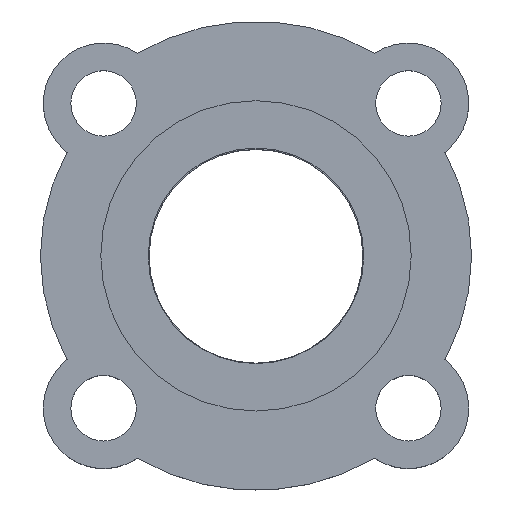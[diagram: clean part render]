
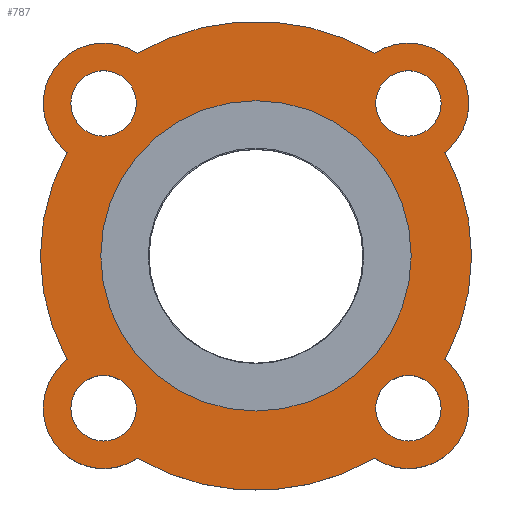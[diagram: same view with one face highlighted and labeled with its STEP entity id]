
A CAD part, top view. The second image highlights one B-rep face of the part: STEP entity #787.
In plain terms, the highlighted planar face has unit normal (0, 0, 1).
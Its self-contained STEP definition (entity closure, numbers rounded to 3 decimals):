
#30=CARTESIAN_POINT('',(0.,0.,-1.));
#31=DIRECTION('',(0.,0.,1.));
#32=DIRECTION('',(0.,1.,0.));
#33=AXIS2_PLACEMENT_3D('',#30,#31,#32);
#39=CARTESIAN_POINT('',(0.,0.,-1.));
#40=DIRECTION('',(0.,0.,-1.));
#41=DIRECTION('',(0.,1.,0.));
#42=AXIS2_PLACEMENT_3D('',#39,#40,#41);
#48=CARTESIAN_POINT('',(-44.194,-44.194,-1.));
#49=DIRECTION('',(0.,0.,-1.));
#50=DIRECTION('',(1.,0.,0.));
#51=AXIS2_PLACEMENT_3D('',#48,#49,#50);
#53=CARTESIAN_POINT('',(-44.194,-44.194,-1.));
#54=DIRECTION('',(0.,0.,-1.));
#55=DIRECTION('',(-1.,0.,0.));
#56=AXIS2_PLACEMENT_3D('',#53,#54,#55);
#58=CARTESIAN_POINT('',(44.194,-44.194,-1.));
#59=DIRECTION('',(0.,0.,-1.));
#60=DIRECTION('',(1.,0.,0.));
#61=AXIS2_PLACEMENT_3D('',#58,#59,#60);
#63=CARTESIAN_POINT('',(44.194,-44.194,-1.));
#64=DIRECTION('',(0.,0.,-1.));
#65=DIRECTION('',(-1.,0.,0.));
#66=AXIS2_PLACEMENT_3D('',#63,#64,#65);
#68=DIRECTION('',(-0.707,0.707,0.));
#69=VECTOR('',#68,2.5);
#70=CARTESIAN_POINT('',(-54.801,30.052,-1.));
#71=LINE('',#70,#69);
#72=CARTESIAN_POINT('',(-44.194,44.194,-1.));
#73=DIRECTION('',(0.,0.,-1.));
#74=DIRECTION('',(-0.707,-0.707,0.));
#75=AXIS2_PLACEMENT_3D('',#72,#73,#74);
#77=CARTESIAN_POINT('',(0.,0.,-1.));
#78=DIRECTION('',(0.,0.,-1.));
#79=DIRECTION('',(-0.505,0.863,0.));
#80=AXIS2_PLACEMENT_3D('',#77,#78,#79);
#82=CARTESIAN_POINT('',(44.194,44.194,-1.));
#83=DIRECTION('',(0.,0.,-1.));
#84=DIRECTION('',(-0.561,0.827,0.));
#85=AXIS2_PLACEMENT_3D('',#82,#83,#84);
#87=DIRECTION('',(-0.707,-0.707,0.));
#88=VECTOR('',#87,2.5);
#89=CARTESIAN_POINT('',(56.569,31.82,-1.));
#90=LINE('',#89,#88);
#91=DIRECTION('',(-0.707,0.707,0.));
#92=VECTOR('',#91,2.5);
#93=CARTESIAN_POINT('',(56.569,-31.82,-1.));
#94=LINE('',#93,#92);
#95=CARTESIAN_POINT('',(44.194,-44.194,-1.));
#96=DIRECTION('',(0.,0.,1.));
#97=DIRECTION('',(-0.561,-0.827,0.));
#98=AXIS2_PLACEMENT_3D('',#95,#96,#97);
#100=CARTESIAN_POINT('',(0.,0.,-1.));
#101=DIRECTION('',(0.,0.,1.));
#102=DIRECTION('',(-0.505,-0.863,0.));
#103=AXIS2_PLACEMENT_3D('',#100,#101,#102);
#105=CARTESIAN_POINT('',(-44.194,-44.194,-1.));
#106=DIRECTION('',(0.,0.,1.));
#107=DIRECTION('',(-0.707,0.707,0.));
#108=AXIS2_PLACEMENT_3D('',#105,#106,#107);
#110=DIRECTION('',(-0.707,-0.707,0.));
#111=VECTOR('',#110,2.5);
#112=CARTESIAN_POINT('',(-54.801,-30.052,-1.));
#113=LINE('',#112,#111);
#114=CARTESIAN_POINT('',(-44.194,44.194,-1.));
#115=DIRECTION('',(0.,0.,1.));
#116=DIRECTION('',(1.,0.,0.));
#117=AXIS2_PLACEMENT_3D('',#114,#115,#116);
#119=CARTESIAN_POINT('',(-44.194,44.194,-1.));
#120=DIRECTION('',(0.,0.,1.));
#121=DIRECTION('',(-1.,0.,0.));
#122=AXIS2_PLACEMENT_3D('',#119,#120,#121);
#124=CARTESIAN_POINT('',(44.194,44.194,-1.));
#125=DIRECTION('',(0.,0.,1.));
#126=DIRECTION('',(1.,0.,0.));
#127=AXIS2_PLACEMENT_3D('',#124,#125,#126);
#129=CARTESIAN_POINT('',(44.194,44.194,-1.));
#130=DIRECTION('',(0.,0.,1.));
#131=DIRECTION('',(-1.,0.,0.));
#132=AXIS2_PLACEMENT_3D('',#129,#130,#131);
#289=CARTESIAN_POINT('',(0.,0.,-1.));
#290=DIRECTION('',(0.,0.,1.));
#291=DIRECTION('',(-0.877,0.481,0.));
#292=AXIS2_PLACEMENT_3D('',#289,#290,#291);
#316=CARTESIAN_POINT('',(0.,0.,-1.));
#317=DIRECTION('',(0.,0.,1.));
#318=DIRECTION('',(0.877,-0.481,0.));
#319=AXIS2_PLACEMENT_3D('',#316,#317,#318);
#518=CARTESIAN_POINT('',(0.,45.,-1.));
#520=VERTEX_POINT('',#518);
#526=CARTESIAN_POINT('',(0.,-45.,-1.));
#528=VERTEX_POINT('',#526);
#534=CARTESIAN_POINT('',(-56.569,-31.82,-1.));
#535=CARTESIAN_POINT('',(-34.369,-58.675,-1.));
#536=VERTEX_POINT('',#534);
#537=VERTEX_POINT('',#535);
#538=CARTESIAN_POINT('',(34.369,-58.675,-1.));
#539=VERTEX_POINT('',#538);
#540=CARTESIAN_POINT('',(56.569,-31.82,-1.));
#541=VERTEX_POINT('',#540);
#561=CARTESIAN_POINT('',(-54.801,-30.052,-1.));
#562=VERTEX_POINT('',#561);
#563=CARTESIAN_POINT('',(54.801,-30.052,-1.));
#564=VERTEX_POINT('',#563);
#565=CARTESIAN_POINT('',(-34.694,-44.194,-1.));
#566=CARTESIAN_POINT('',(-53.694,-44.194,-1.));
#567=VERTEX_POINT('',#565);
#568=VERTEX_POINT('',#566);
#569=CARTESIAN_POINT('',(53.694,-44.194,-1.));
#570=CARTESIAN_POINT('',(34.694,-44.194,-1.));
#571=VERTEX_POINT('',#569);
#572=VERTEX_POINT('',#570);
#581=CARTESIAN_POINT('',(-56.569,31.82,-1.));
#582=CARTESIAN_POINT('',(-34.369,58.675,-1.));
#583=VERTEX_POINT('',#581);
#584=VERTEX_POINT('',#582);
#585=CARTESIAN_POINT('',(34.369,58.675,-1.));
#586=VERTEX_POINT('',#585);
#587=CARTESIAN_POINT('',(56.569,31.82,-1.));
#588=VERTEX_POINT('',#587);
#597=CARTESIAN_POINT('',(-54.801,30.052,-1.));
#598=VERTEX_POINT('',#597);
#599=CARTESIAN_POINT('',(54.801,30.052,-1.));
#600=VERTEX_POINT('',#599);
#606=CARTESIAN_POINT('',(-34.694,44.194,-1.));
#608=VERTEX_POINT('',#606);
#610=CARTESIAN_POINT('',(-53.694,44.194,-1.));
#612=VERTEX_POINT('',#610);
#614=CARTESIAN_POINT('',(53.694,44.194,-1.));
#616=VERTEX_POINT('',#614);
#618=CARTESIAN_POINT('',(34.694,44.194,-1.));
#620=VERTEX_POINT('',#618);
#728=CARTESIAN_POINT('',(0.,0.,-1.));
#729=DIRECTION('',(0.,0.,1.));
#730=DIRECTION('',(0.,1.,0.));
#731=AXIS2_PLACEMENT_3D('',#728,#729,#730);
#732=PLANE('',#731);
#734=ORIENTED_EDGE('',*,*,#733,.F.);
#736=ORIENTED_EDGE('',*,*,#735,.T.);
#738=ORIENTED_EDGE('',*,*,#737,.T.);
#740=ORIENTED_EDGE('',*,*,#739,.T.);
#742=ORIENTED_EDGE('',*,*,#741,.T.);
#744=ORIENTED_EDGE('',*,*,#743,.T.);
#746=ORIENTED_EDGE('',*,*,#745,.F.);
#748=ORIENTED_EDGE('',*,*,#747,.F.);
#750=ORIENTED_EDGE('',*,*,#749,.F.);
#752=ORIENTED_EDGE('',*,*,#751,.F.);
#754=ORIENTED_EDGE('',*,*,#753,.F.);
#756=ORIENTED_EDGE('',*,*,#755,.F.);
#757=EDGE_LOOP('',(#734,#736,#738,#740,#742,#744,#746,#748,#750,#752,#754,
#756));
#758=FACE_OUTER_BOUND('',#757,.F.);
#760=ORIENTED_EDGE('',*,*,#759,.F.);
#762=ORIENTED_EDGE('',*,*,#761,.F.);
#763=EDGE_LOOP('',(#760,#762));
#764=FACE_BOUND('',#763,.F.);
#766=ORIENTED_EDGE('',*,*,#765,.F.);
#768=ORIENTED_EDGE('',*,*,#767,.F.);
#769=EDGE_LOOP('',(#766,#768));
#770=FACE_BOUND('',#769,.F.);
#771=ORIENTED_EDGE('',*,*,#721,.F.);
#772=ORIENTED_EDGE('',*,*,#710,.T.);
#773=EDGE_LOOP('',(#771,#772));
#774=FACE_BOUND('',#773,.F.);
#776=ORIENTED_EDGE('',*,*,#775,.T.);
#778=ORIENTED_EDGE('',*,*,#777,.T.);
#779=EDGE_LOOP('',(#776,#778));
#780=FACE_BOUND('',#779,.F.);
#782=ORIENTED_EDGE('',*,*,#781,.T.);
#784=ORIENTED_EDGE('',*,*,#783,.T.);
#785=EDGE_LOOP('',(#782,#784));
#786=FACE_BOUND('',#785,.F.);
#787=ADVANCED_FACE('',(#758,#764,#770,#774,#780,#786),#732,.T.);
#34=CIRCLE('',#33,45.);
#43=CIRCLE('',#42,45.);
#52=CIRCLE('',#51,9.5);
#57=CIRCLE('',#56,9.5);
#62=CIRCLE('',#61,9.5);
#67=CIRCLE('',#66,9.5);
#76=CIRCLE('',#75,17.5);
#81=CIRCLE('',#80,68.);
#86=CIRCLE('',#85,17.5);
#99=CIRCLE('',#98,17.5);
#104=CIRCLE('',#103,68.);
#109=CIRCLE('',#108,17.5);
#118=CIRCLE('',#117,9.5);
#123=CIRCLE('',#122,9.5);
#128=CIRCLE('',#127,9.5);
#133=CIRCLE('',#132,9.5);
#293=CIRCLE('',#292,62.5);
#320=CIRCLE('',#319,62.5);
#710=EDGE_CURVE('',#520,#528,#34,.T.);
#721=EDGE_CURVE('',#520,#528,#43,.T.);
#733=EDGE_CURVE('',#598,#562,#293,.T.);
#735=EDGE_CURVE('',#598,#583,#71,.T.);
#737=EDGE_CURVE('',#583,#584,#76,.T.);
#739=EDGE_CURVE('',#584,#586,#81,.T.);
#741=EDGE_CURVE('',#586,#588,#86,.T.);
#743=EDGE_CURVE('',#588,#600,#90,.T.);
#745=EDGE_CURVE('',#564,#600,#320,.T.);
#747=EDGE_CURVE('',#541,#564,#94,.T.);
#749=EDGE_CURVE('',#539,#541,#99,.T.);
#751=EDGE_CURVE('',#537,#539,#104,.T.);
#753=EDGE_CURVE('',#536,#537,#109,.T.);
#755=EDGE_CURVE('',#562,#536,#113,.T.);
#759=EDGE_CURVE('',#567,#568,#52,.T.);
#761=EDGE_CURVE('',#568,#567,#57,.T.);
#765=EDGE_CURVE('',#571,#572,#62,.T.);
#767=EDGE_CURVE('',#572,#571,#67,.T.);
#775=EDGE_CURVE('',#608,#612,#118,.T.);
#777=EDGE_CURVE('',#612,#608,#123,.T.);
#781=EDGE_CURVE('',#616,#620,#128,.T.);
#783=EDGE_CURVE('',#620,#616,#133,.T.);
